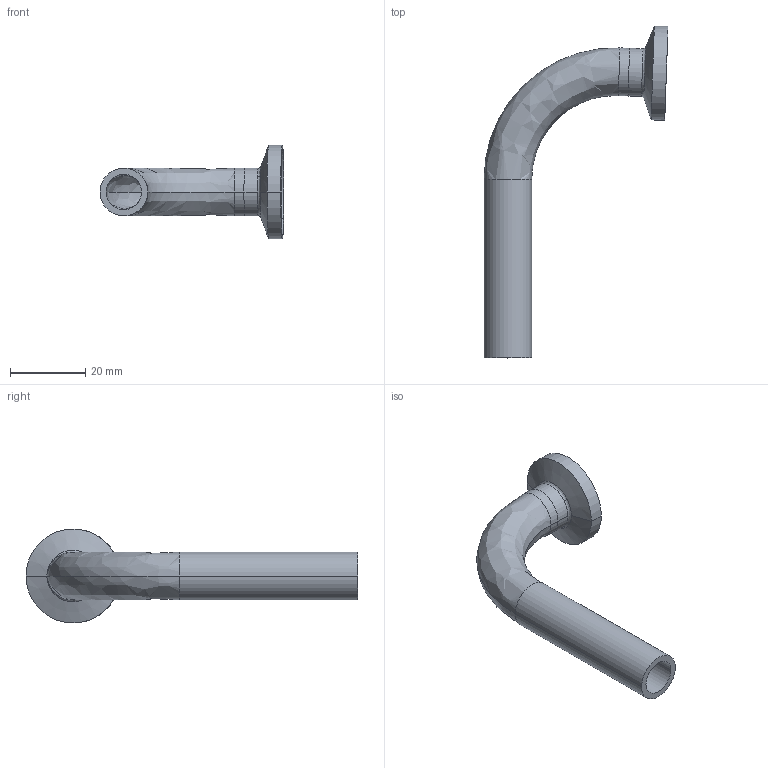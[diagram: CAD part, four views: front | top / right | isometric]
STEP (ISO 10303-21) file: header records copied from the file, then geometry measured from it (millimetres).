
FILE_DESCRIPTION (( 'STEP AP214' ), '1' );
FILE_NAME ('TE2C926L.5-...STEP', '2016-05-22T11:00:47', ( 'eran' ), ( '' ), 'SwSTEP 2.0', 'SolidWorks 2016', '' );
FILE_SCHEMA (( 'AUTOMOTIVE_DESIGN' ));
Length unit declared in the file: millimetre
Products named in the file (1): TE2C926L.5-..
Bounding box: 48.95 x 88.31 x 24.99 mm (x, y, z)
Volume: 7390.7 mm3; surface area: 8506.8 mm2
Topology: 2 solids, 2 shells, 37 faces, 86 edges, 54 vertices
Faces by surface type: cylinder 16, bspline 12, plane 5, cone 4
Entity records: 1265 total; most frequent: CARTESIAN_POINT 370, DIRECTION 196, ORIENTED_EDGE 172, AXIS2_PLACEMENT_3D 88, EDGE_CURVE 86, CIRCLE 62, VERTEX_POINT 54, EDGE_LOOP 42
